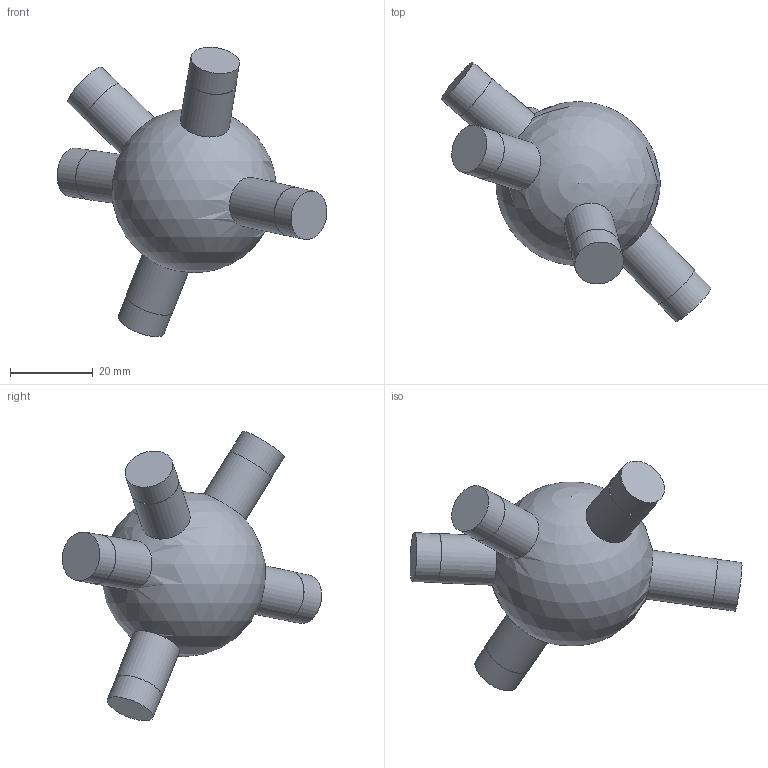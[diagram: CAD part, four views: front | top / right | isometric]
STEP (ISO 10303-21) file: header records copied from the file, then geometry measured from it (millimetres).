
FILE_DESCRIPTION(('Open CASCADE Model'),'2;1');
FILE_NAME('Open CASCADE Shape Model','2026-10-21T12:47:57',('Author'),( 'Open CASCADE'),'Open CASCADE STEP processor 7.9','Open CASCADE 7.9' ,'Unknown');
FILE_SCHEMA(('AUTOMOTIVE_DESIGN { 1 0 10303 214 1 1 1 1 }'));
Length unit declared in the file: millimetre
Products named in the file (1): Open CASCADE STEP translator 7.9 48
Bounding box: 65.45 x 62.87 x 70.2 mm (x, y, z)
Volume: 44101.9 mm3; surface area: 8640.6 mm2
Topology: 1 solids, 1 shells, 21 faces, 33 edges, 22 vertices
Faces by surface type: cylinder 10, plane 10, sphere 1
Full cylindrical faces by diameter (mm): 11.9 x5, 12 x5
Entity records: 1206 total; most frequent: CARTESIAN_POINT 481, DIRECTION 149, ORIENTED_EDGE 60, PCURVE 60, DEFINITIONAL_REPRESENTATION 60, LINE 50, VECTOR 50, AXIS2_PLACEMENT_3D 42
